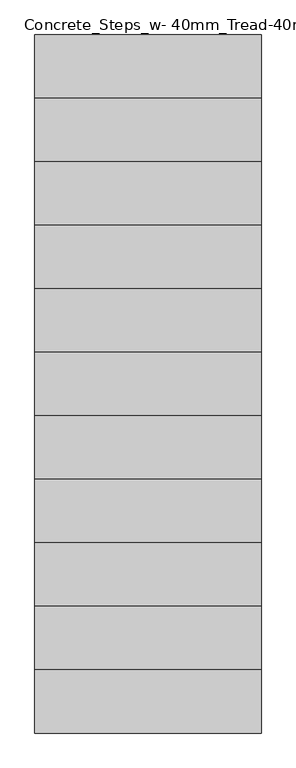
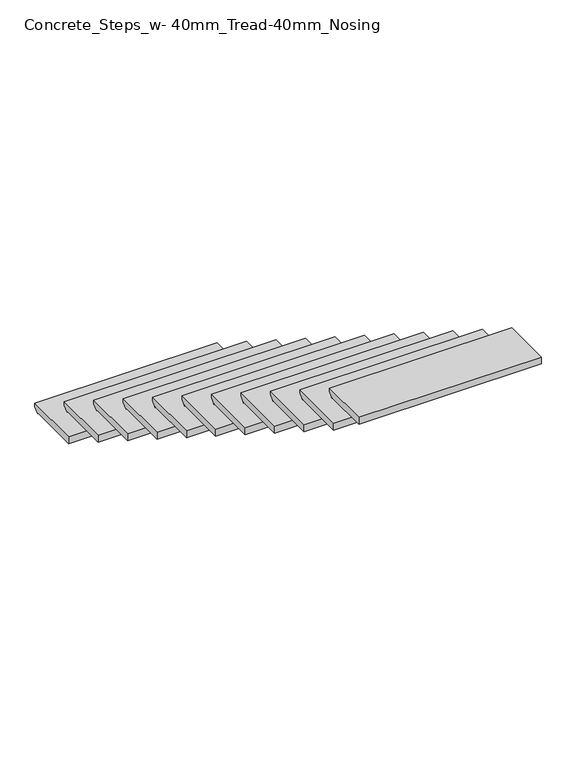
"""IFC4 building model written with IfcOpenShell, lengths in millimetres: stair flight geometry, Concrete_Steps_w- 40mm_Tread-40mm_Nosing."""

from ifc_helpers import new_model, si_unit, frame, origin, place, context, project, spatial, polyline, outline, extrude, source, transform, mapped, element, save


def concrete_steps_w_40mm_tread_40mm_nosing_d8e39b1e(model_context):
    return source(origin(), model_context, "Body", "SweptSolid", [
        extrude(outline(polyline([(5074.9946591, 178.5714286), (5394.9946591, 178.5714286), (5394.9946591, 159.5214286), (5369.5946591, 134.1214286), (5369.5946591, 138.5714286), (5074.9946591, 138.5714286), (5074.9946591, 178.5714286)])), frame((-5849.2057633, 0.0, 0.0), z_axis=(1.0, 0.0, 0.0), x_axis=(0.0, 1.0, 0.0)), (0.0, 0.0, 1.0), 1000.0),
        extrude(outline(polyline([(4794.9946591, 357.1428571), (5114.9946591, 357.1428571), (5114.9946591, 338.0928571), (5089.5946591, 312.6928571), (5089.5946591, 317.1428571), (4794.9946591, 317.1428571), (4794.9946591, 357.1428571)])), frame((-5849.2057633, 0.0, 0.0), z_axis=(1.0, 0.0, 0.0), x_axis=(0.0, 1.0, 0.0)), (0.0, 0.0, 1.0), 1000.0),
        extrude(outline(polyline([(4514.9946591, 535.7142857), (4834.9946591, 535.7142857), (4834.9946591, 516.6642857), (4809.5946591, 491.2642857), (4809.5946591, 495.7142857), (4514.9946591, 495.7142857), (4514.9946591, 535.7142857)])), frame((-5849.2057633, 0.0, 0.0), z_axis=(1.0, 0.0, 0.0), x_axis=(0.0, 1.0, 0.0)), (0.0, 0.0, 1.0), 1000.0),
        extrude(outline(polyline([(4234.9946591, 714.2857143), (4554.9946591, 714.2857143), (4554.9946591, 695.2357143), (4529.5946591, 669.8357143), (4529.5946591, 674.2857143), (4234.9946591, 674.2857143), (4234.9946591, 714.2857143)])), frame((-5849.2057633, 0.0, 0.0), z_axis=(1.0, 0.0, 0.0), x_axis=(0.0, 1.0, 0.0)), (0.0, 0.0, 1.0), 1000.0),
        extrude(outline(polyline([(3954.9946591, 892.8571429), (4274.9946591, 892.8571429), (4274.9946591, 873.8071429), (4249.5946591, 848.4071429), (4249.5946591, 852.8571429), (3954.9946591, 852.8571429), (3954.9946591, 892.8571429)])), frame((-5849.2057633, 0.0, 0.0), z_axis=(1.0, 0.0, 0.0), x_axis=(0.0, 1.0, 0.0)), (0.0, 0.0, 1.0), 1000.0),
        extrude(outline(polyline([(3674.9946591, 1071.4285714), (3994.9946591, 1071.4285714), (3994.9946591, 1052.3785714), (3969.5946591, 1026.9785714), (3969.5946591, 1031.4285714), (3674.9946591, 1031.4285714), (3674.9946591, 1071.4285714)])), frame((-5849.2057633, 0.0, 0.0), z_axis=(1.0, 0.0, 0.0), x_axis=(0.0, 1.0, 0.0)), (0.0, 0.0, 1.0), 1000.0),
        extrude(outline(polyline([(3394.9946591, 1250.0), (3714.9946591, 1250.0), (3714.9946591, 1230.95), (3689.5946591, 1205.55), (3689.5946591, 1210.0), (3394.9946591, 1210.0), (3394.9946591, 1250.0)])), frame((-5849.2057633, 0.0, 0.0), z_axis=(1.0, 0.0, 0.0), x_axis=(0.0, 1.0, 0.0)), (0.0, 0.0, 1.0), 1000.0),
        extrude(outline(polyline([(3114.9946591, 1428.5714286), (3434.9946591, 1428.5714286), (3434.9946591, 1409.5214286), (3409.5946591, 1384.1214286), (3409.5946591, 1388.5714286), (3114.9946591, 1388.5714286), (3114.9946591, 1428.5714286)])), frame((-5849.2057633, 0.0, 0.0), z_axis=(1.0, 0.0, 0.0), x_axis=(0.0, 1.0, 0.0)), (0.0, 0.0, 1.0), 1000.0),
        extrude(outline(polyline([(2834.9946591, 1607.1428571), (3154.9946591, 1607.1428571), (3154.9946591, 1588.0928571), (3129.5946591, 1562.6928571), (3129.5946591, 1567.1428571), (2834.9946591, 1567.1428571), (2834.9946591, 1607.1428571)])), frame((-5849.2057633, 0.0, 0.0), z_axis=(1.0, 0.0, 0.0), x_axis=(0.0, 1.0, 0.0)), (0.0, 0.0, 1.0), 1000.0),
        extrude(outline(polyline([(2554.9946591, 1785.7142857), (2874.9946591, 1785.7142857), (2874.9946591, 1766.6642857), (2849.5946591, 1741.2642857), (2849.5946591, 1745.7142857), (2554.9946591, 1745.7142857), (2554.9946591, 1785.7142857)])), frame((-5849.2057633, 0.0, 0.0), z_axis=(1.0, 0.0, 0.0), x_axis=(0.0, 1.0, 0.0)), (0.0, 0.0, 1.0), 1000.0),
        extrude(outline(polyline([(2314.9946591, 1964.2857143), (2594.9946591, 1964.2857143), (2594.9946591, 1945.2357143), (2569.5946591, 1919.8357143), (2569.5946591, 1924.2857143), (2314.9946591, 1924.2857143), (2314.9946591, 1964.2857143)])), frame((-5849.2057633, 0.0, 0.0), z_axis=(1.0, 0.0, 0.0), x_axis=(0.0, 1.0, 0.0)), (0.0, 0.0, 1.0), 1000.0),
    ])


if __name__ == "__main__":
    model = new_model("IFC4")
    model_context = context("Model", 3, world=origin())
    ifc_project = project(units=[si_unit("LENGTHUNIT", "METRE", prefix="MILLI")], contexts=[model_context])
    site = spatial("IfcSite", under=ifc_project)
    building = spatial("IfcBuilding", under=site)
    placement = place(None, origin())
    concrete_steps_w_40mm_tread_40mm_nosing_shape = concrete_steps_w_40mm_tread_40mm_nosing_d8e39b1e(model_context)
    element("IfcStairFlight", 1, ObjectType="Concrete_Steps_w- 40mm_Tread-40mm_Nosing", at=placement, inside=building, context=model_context, shape_type="MappedRepresentation", body=[
        mapped(concrete_steps_w_40mm_tread_40mm_nosing_shape, transform((0.0, 0.0, 0.0), x_axis=(1.0, 0.0, 0.0), y_axis=(0.0, 1.0, 0.0), z_axis=(0.0, 0.0, 1.0))),
    ])
    save(model, "model.ifc")
